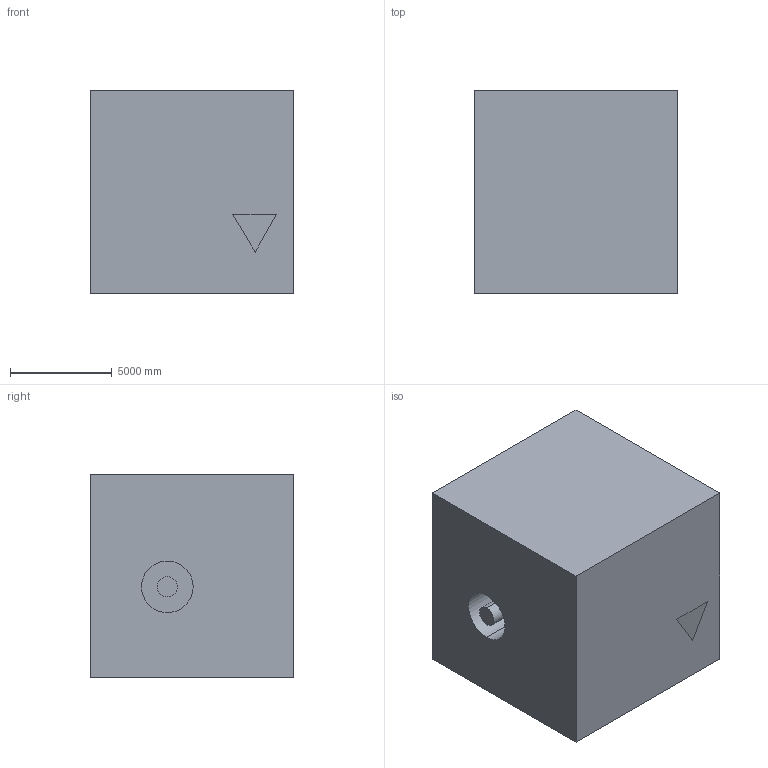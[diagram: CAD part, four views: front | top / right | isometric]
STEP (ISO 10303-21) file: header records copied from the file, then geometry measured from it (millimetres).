
FILE_DESCRIPTION (( 'STEP AP203' ), '1' );
FILE_NAME ('124.STEP', '2022-07-28T13:40:34', ( 'user' ), ( '' ), 'SwSTEP 2.0', 'SolidWorks 2021', '' );
FILE_SCHEMA (( 'CONFIG_CONTROL_DESIGN' ));
Length unit declared in the file: centimetre
Products named in the file (1): 124
Bounding box: 10000 x 10000 x 10000 mm (x, y, z)
Volume: 983585341192.6 mm3; surface area: 647458884.6 mm2
Topology: 1 solids, 1 shells, 16 faces, 33 edges, 22 vertices
Faces by surface type: plane 12, cylinder 4
Entity records: 502 total; most frequent: DIRECTION 75, CARTESIAN_POINT 72, ORIENTED_EDGE 66, EDGE_CURVE 33, VECTOR 25, AXIS2_PLACEMENT_3D 25, LINE 25, VERTEX_POINT 22
